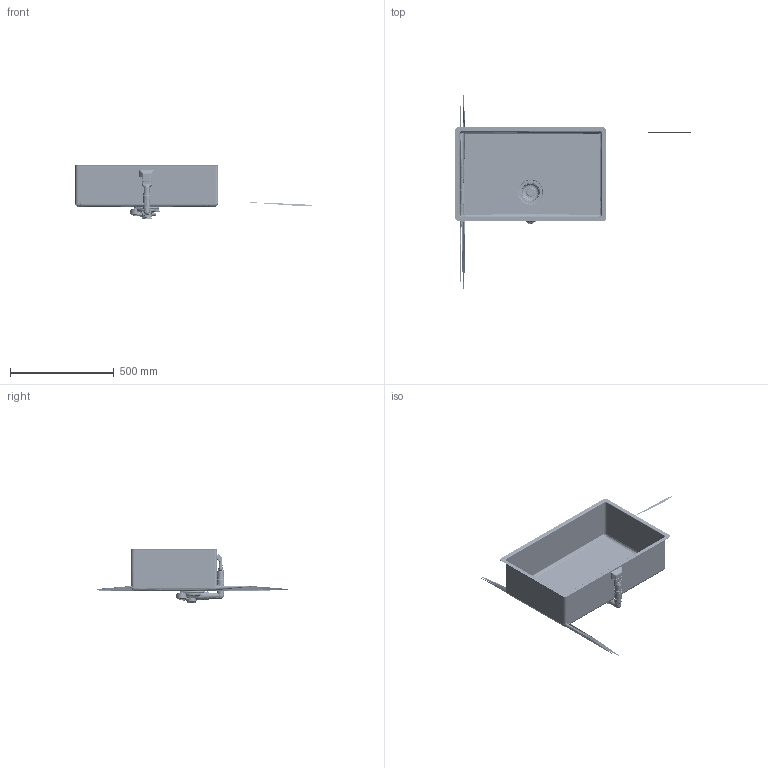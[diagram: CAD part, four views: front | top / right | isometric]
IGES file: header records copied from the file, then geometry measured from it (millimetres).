
Global section: file name: J:\2016\CLX\FRANKE\materiale ricevuto\Sinks\Sinks\Franke Box\Requested\210_110_68\BXX_210_110_68.igs; native system: Rhinoceros ( Jun  9 2014 ); preprocessor: Trout Lake IGES 012 Jun  9 2014; date: 160408.112310; units: millimetre
Bounding box: 1161.24 x 933.97 x 259.81 mm (x, y, z)
Surface area: 1708257.4 mm2 (no closed solid volume)
Topology: 0 solids, 0 shells, 5589 faces, 36000 edges, 35759 vertices
Faces by surface type: bspline 5589
